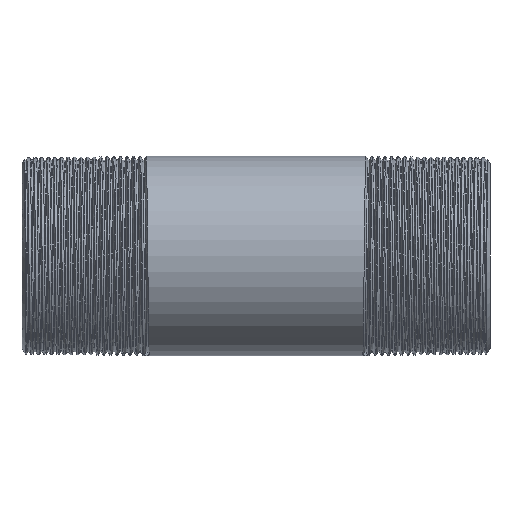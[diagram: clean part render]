
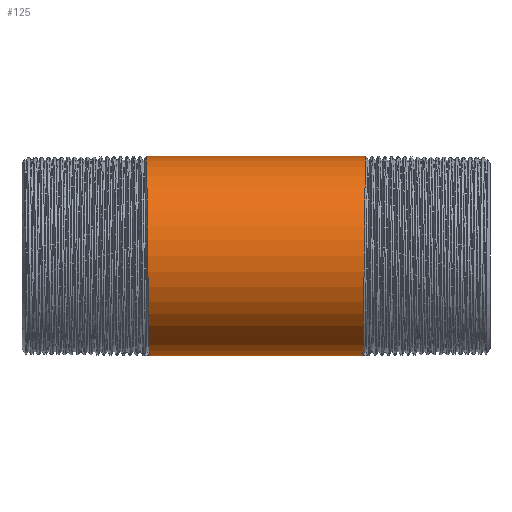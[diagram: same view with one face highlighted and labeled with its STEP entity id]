
A CAD part, front view. The second image highlights one B-rep face of the part: STEP entity #125.
In plain terms, the highlighted cylindrical face has radius 10.65 mm (diameter 21.3 mm), a partial arc.
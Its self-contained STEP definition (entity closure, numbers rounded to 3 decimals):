
#125 = ADVANCED_FACE ( 'NONE', ( #5615 ), #4650, .T. ) ;
#138 = EDGE_CURVE ( 'NONE', #569, #9787, #5729, .T. ) ;
#569 = VERTEX_POINT ( 'NONE', #4640 ) ;
#667 = CARTESIAN_POINT ( 'NONE',  ( -11.679, -6.149, 10.65 ) ) ;
#1024 = LINE ( 'NONE', #8315, #6640 ) ;
#1474 = VERTEX_POINT ( 'NONE', #7354 ) ;
#3230 = DIRECTION ( 'NONE',  ( -1., 0., 0. ) ) ;
#3374 = CARTESIAN_POINT ( 'NONE',  ( 11.446, -6.149, -10.65 ) ) ;
#3414 = ORIENTED_EDGE ( 'NONE', *, *, #138, .F. ) ;
#4640 = CARTESIAN_POINT ( 'NONE',  ( -11.388, 0., -10.65 ) ) ;
#4650 = CYLINDRICAL_SURFACE ( 'NONE', #11435, 10.65 ) ;
#5060 = CARTESIAN_POINT ( 'NONE',  ( 11.679, -6.149, 10.65 ) ) ;
#5615 = FACE_OUTER_BOUND ( 'NONE', #11492, .T. ) ;
#5729 =( BOUNDED_CURVE ( )  B_SPLINE_CURVE ( 2, ( #5820, #12264, #7129, #6031, #5886, #667, #13169 ),
 .UNSPECIFIED., .F., .F. ) 
 B_SPLINE_CURVE_WITH_KNOTS ( ( 3, 2, 2, 3 ),
 ( 0., 0.008, 0.017, 0.025 ),
 .UNSPECIFIED. ) 
 CURVE ( )  GEOMETRIC_REPRESENTATION_ITEM ( )  RATIONAL_B_SPLINE_CURVE ( ( 1., 0.866, 1., 0.866, 1., 0.866, 1. ) ) 
 REPRESENTATION_ITEM ( '' )  );
#5820 = CARTESIAN_POINT ( 'NONE',  ( -11.388, 0., -10.65 ) ) ;
#5886 = CARTESIAN_POINT ( 'NONE',  ( -11.621, -9.223, 5.325 ) ) ;
#5953 = VERTEX_POINT ( 'NONE', #13289 ) ;
#6025 = CARTESIAN_POINT ( 'NONE',  ( 11.738, 0., 10.65 ) ) ;
#6031 = CARTESIAN_POINT ( 'NONE',  ( -11.563, -12.298, 0. ) ) ;
#6527 = CARTESIAN_POINT ( 'NONE',  ( 11.504, -9.223, -5.325 ) ) ;
#6640 = VECTOR ( 'NONE', #3230, 1000. ) ;
#7013 = EDGE_CURVE ( 'NONE', #5953, #9787, #8808, .T. ) ;
#7059 = DIRECTION ( 'NONE',  ( 0., 0., 1. ) ) ;
#7129 = CARTESIAN_POINT ( 'NONE',  ( -11.504, -9.223, -5.325 ) ) ;
#7354 = CARTESIAN_POINT ( 'NONE',  ( 11.388, 0., -10.65 ) ) ;
#7634 = ORIENTED_EDGE ( 'NONE', *, *, #8050, .T. ) ;
#7981 = CARTESIAN_POINT ( 'NONE',  ( -11.738, 0., 10.65 ) ) ;
#8050 = EDGE_CURVE ( 'NONE', #1474, #5953, #10463, .T. ) ;
#8160 = ORIENTED_EDGE ( 'NONE', *, *, #7013, .T. ) ;
#8315 = CARTESIAN_POINT ( 'NONE',  ( -149.494, 0., -10.65 ) ) ;
#8808 = LINE ( 'NONE', #11001, #11654 ) ;
#8842 = DIRECTION ( 'NONE',  ( -1., 0., 0. ) ) ;
#9787 = VERTEX_POINT ( 'NONE', #7981 ) ;
#9802 = CARTESIAN_POINT ( 'NONE',  ( -149.494, 0., 0. ) ) ;
#9836 = DIRECTION ( 'NONE',  ( -1., 0., 0. ) ) ;
#10210 = CARTESIAN_POINT ( 'NONE',  ( 11.563, -12.298, 0. ) ) ;
#10463 =( BOUNDED_CURVE ( )  B_SPLINE_CURVE ( 2, ( #12781, #3374, #6527, #10210, #13438, #5060, #6025 ),
 .UNSPECIFIED., .F., .F. ) 
 B_SPLINE_CURVE_WITH_KNOTS ( ( 3, 2, 2, 3 ),
 ( 0., 0.008, 0.017, 0.025 ),
 .UNSPECIFIED. ) 
 CURVE ( )  GEOMETRIC_REPRESENTATION_ITEM ( )  RATIONAL_B_SPLINE_CURVE ( ( 1., 0.866, 1., 0.866, 1., 0.866, 1. ) ) 
 REPRESENTATION_ITEM ( '' )  );
#11001 = CARTESIAN_POINT ( 'NONE',  ( -149.494, 0., 10.65 ) ) ;
#11435 = AXIS2_PLACEMENT_3D ( 'NONE', #9802, #8842, #7059 ) ;
#11492 = EDGE_LOOP ( 'NONE', ( #12624, #7634, #8160, #3414 ) ) ;
#11654 = VECTOR ( 'NONE', #9836, 1000. ) ;
#12264 = CARTESIAN_POINT ( 'NONE',  ( -11.446, -6.149, -10.65 ) ) ;
#12624 = ORIENTED_EDGE ( 'NONE', *, *, #12830, .F. ) ;
#12781 = CARTESIAN_POINT ( 'NONE',  ( 11.388, 0., -10.65 ) ) ;
#12830 = EDGE_CURVE ( 'NONE', #1474, #569, #1024, .T. ) ;
#13169 = CARTESIAN_POINT ( 'NONE',  ( -11.738, 0., 10.65 ) ) ;
#13289 = CARTESIAN_POINT ( 'NONE',  ( 11.738, 0., 10.65 ) ) ;
#13438 = CARTESIAN_POINT ( 'NONE',  ( 11.621, -9.223, 5.325 ) ) ;
